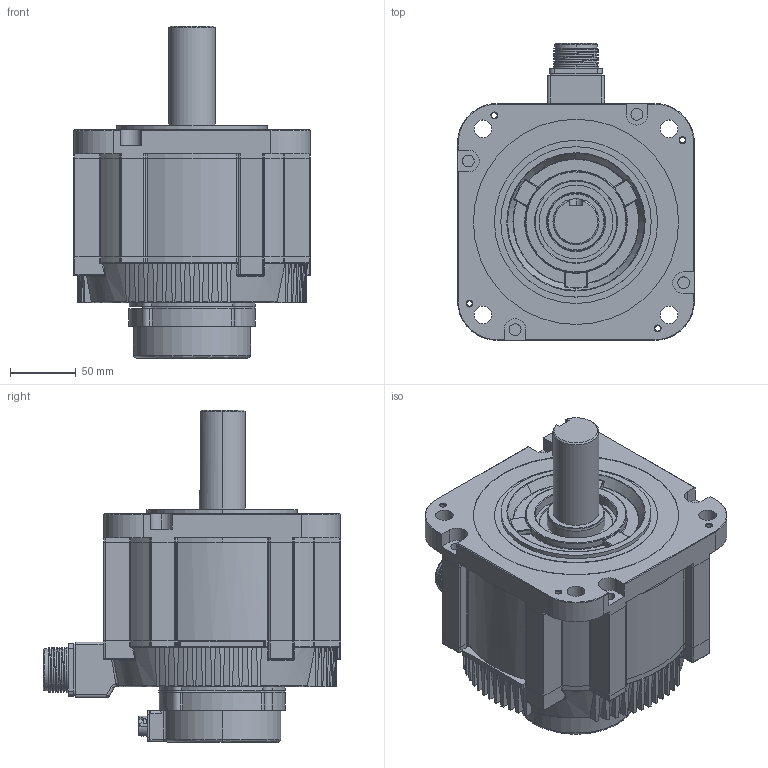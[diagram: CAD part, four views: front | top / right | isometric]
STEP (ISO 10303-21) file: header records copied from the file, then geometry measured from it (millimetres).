
FILE_DESCRIPTION (( 'STEP AP203' ), '1' );
FILE_NAME ('SMP-H290.STEP', '2021-05-04T05:48:48', ( '' ), ( '' ), 'SwSTEP 2.0', 'SolidWorks 2016', '' );
FILE_SCHEMA (( 'CONFIG_CONTROL_DESIGN' ));
Length unit declared in the file: millimetre
Products named in the file (1): SMP-H290
Bounding box: 180 x 225.8 x 252.3 mm (x, y, z)
Surface area: 252229.7 mm2 (no closed solid volume)
Topology: 0 solids, 13 shells, 1033 faces, 2938 edges, 1867 vertices
Faces by surface type: cylinder 432, plane 270, bspline 222, cone 109
Entity records: 44347 total; most frequent: CARTESIAN_POINT 19385, ORIENTED_EDGE 5306, DIRECTION 4904, EDGE_CURVE 2887, AXIS2_PLACEMENT_3D 1914, VERTEX_POINT 1867, EDGE_LOOP 1120, CIRCLE 1102
